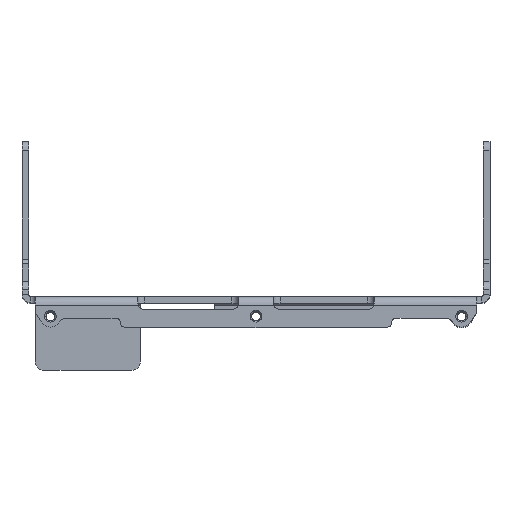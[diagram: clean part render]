
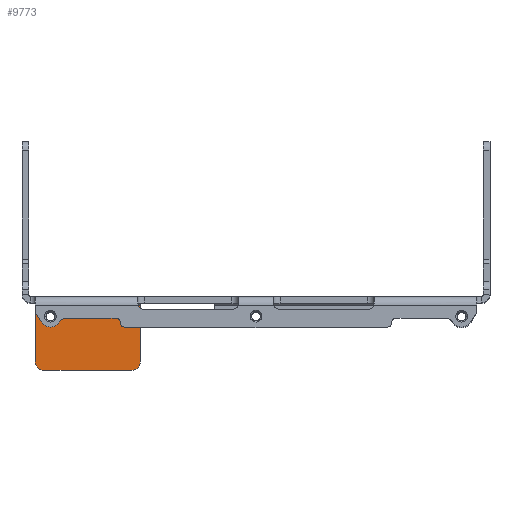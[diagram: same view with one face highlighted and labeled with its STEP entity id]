
A CAD part, top view. The second image highlights one B-rep face of the part: STEP entity #9773.
In plain terms, the highlighted planar face has unit normal (0, 0, 1).
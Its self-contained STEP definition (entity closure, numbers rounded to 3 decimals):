
#2727=DIRECTION('',(-1.,0.,0.));
#2728=VECTOR('',#2727,24.05);
#2729=CARTESIAN_POINT('',(-26.45,-0.5,-47.5));
#2730=LINE('',#2729,#2728);
#2741=CARTESIAN_POINT('',(-48.5,-13.2,-47.5));
#2742=DIRECTION('',(0.,0.,-1.));
#2743=DIRECTION('',(0.,-1.,0.));
#2744=AXIS2_PLACEMENT_3D('',#2741,#2742,#2743);
#2749=DIRECTION('',(0.,1.,0.));
#2750=VECTOR('',#2749,12.7);
#2751=CARTESIAN_POINT('',(-50.5,-13.2,-47.5));
#2752=LINE('',#2751,#2750);
#2756=DIRECTION('',(0.,-1.,0.));
#2757=VECTOR('',#2756,12.7);
#2758=CARTESIAN_POINT('',(-26.45,-0.5,-47.5));
#2759=LINE('',#2758,#2757);
#2763=CARTESIAN_POINT('',(-28.45,-13.2,-47.5));
#2764=DIRECTION('',(0.,0.,-1.));
#2765=DIRECTION('',(1.,0.,0.));
#2766=AXIS2_PLACEMENT_3D('',#2763,#2764,#2765);
#2771=CARTESIAN_POINT('',(-47.,-3.,-47.5));
#2772=DIRECTION('',(0.,0.,1.));
#2773=DIRECTION('',(-1.,0.,0.));
#2774=AXIS2_PLACEMENT_3D('',#2771,#2772,#2773);
#2779=CARTESIAN_POINT('',(-47.,-3.,-47.5));
#2780=DIRECTION('',(0.,0.,1.));
#2781=DIRECTION('',(1.,0.,0.));
#2782=AXIS2_PLACEMENT_3D('',#2779,#2780,#2781);
#2854=DIRECTION('',(1.,0.,0.));
#2855=VECTOR('',#2854,20.05);
#2856=CARTESIAN_POINT('',(-48.5,-15.2,-47.5));
#2857=LINE('',#2856,#2855);
#7790=CARTESIAN_POINT('',(-48.5,-15.2,-47.5));
#7791=CARTESIAN_POINT('',(-50.5,-13.2,-47.5));
#7792=VERTEX_POINT('',#7790);
#7793=VERTEX_POINT('',#7791);
#7794=CARTESIAN_POINT('',(-50.5,-0.5,-47.5));
#7795=VERTEX_POINT('',#7794);
#7796=CARTESIAN_POINT('',(-26.45,-0.5,-47.5));
#7797=VERTEX_POINT('',#7796);
#7798=CARTESIAN_POINT('',(-26.45,-13.2,-47.5));
#7799=VERTEX_POINT('',#7798);
#7800=CARTESIAN_POINT('',(-28.45,-15.2,-47.5));
#7801=VERTEX_POINT('',#7800);
#7802=CARTESIAN_POINT('',(-48.025,-3.,-47.5));
#7803=CARTESIAN_POINT('',(-45.975,-3.,-47.5));
#7804=VERTEX_POINT('',#7802);
#7805=VERTEX_POINT('',#7803);
#9749=CARTESIAN_POINT('',(50.5,1.5,-47.5));
#9750=DIRECTION('',(0.,0.,-1.));
#9751=DIRECTION('',(1.,0.,0.));
#9752=AXIS2_PLACEMENT_3D('',#9749,#9750,#9751);
#9753=PLANE('',#9752);
#9755=ORIENTED_EDGE('',*,*,#9754,.T.);
#9757=ORIENTED_EDGE('',*,*,#9756,.T.);
#9758=ORIENTED_EDGE('',*,*,#9740,.F.);
#9760=ORIENTED_EDGE('',*,*,#9759,.T.);
#9762=ORIENTED_EDGE('',*,*,#9761,.T.);
#9764=ORIENTED_EDGE('',*,*,#9763,.F.);
#9765=EDGE_LOOP('',(#9755,#9757,#9758,#9760,#9762,#9764));
#9766=FACE_OUTER_BOUND('',#9765,.F.);
#9768=ORIENTED_EDGE('',*,*,#9767,.T.);
#9770=ORIENTED_EDGE('',*,*,#9769,.T.);
#9771=EDGE_LOOP('',(#9768,#9770));
#9772=FACE_BOUND('',#9771,.F.);
#2745=CIRCLE('',#2744,2.);
#2767=CIRCLE('',#2766,2.);
#2775=CIRCLE('',#2774,1.025);
#2783=CIRCLE('',#2782,1.025);
#9740=EDGE_CURVE('',#7797,#7795,#2730,.T.);
#9754=EDGE_CURVE('',#7792,#7793,#2745,.T.);
#9756=EDGE_CURVE('',#7793,#7795,#2752,.T.);
#9759=EDGE_CURVE('',#7797,#7799,#2759,.T.);
#9761=EDGE_CURVE('',#7799,#7801,#2767,.T.);
#9763=EDGE_CURVE('',#7792,#7801,#2857,.T.);
#9767=EDGE_CURVE('',#7804,#7805,#2775,.T.);
#9769=EDGE_CURVE('',#7805,#7804,#2783,.T.);
#9773=ADVANCED_FACE('',(#9766,#9772),#9753,.F.);
